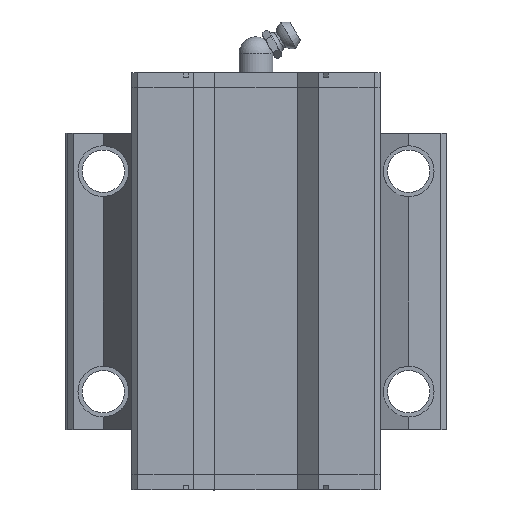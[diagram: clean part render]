
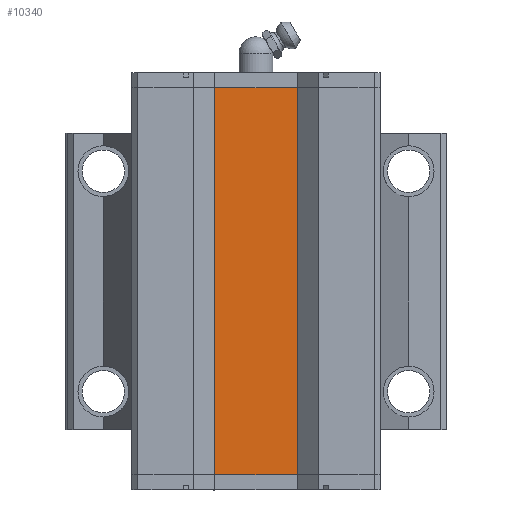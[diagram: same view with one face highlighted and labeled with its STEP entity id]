
A CAD part, front view. The second image highlights one B-rep face of the part: STEP entity #10340.
In plain terms, the highlighted planar face has unit normal (0, -1, 0).
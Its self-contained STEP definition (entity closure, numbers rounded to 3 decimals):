
#499 = CARTESIAN_POINT ( 'NONE',  ( -9.695, 20.5, -45.65 ) ) ;
#501 = CARTESIAN_POINT ( 'NONE',  ( 9.695, 20.5, 45.65 ) ) ;
#682 = VERTEX_POINT ( 'NONE', #9838 ) ;
#684 = VERTEX_POINT ( 'NONE', #9840 ) ;
#1614 = ORIENTED_EDGE ( 'NONE', *, *, #6444, .F. ) ;
#1615 = ORIENTED_EDGE ( 'NONE', *, *, #6443, .F. ) ;
#1616 = ORIENTED_EDGE ( 'NONE', *, *, #6440, .F. ) ;
#1617 = ORIENTED_EDGE ( 'NONE', *, *, #6446, .F. ) ;
#3119 = FACE_OUTER_BOUND ( 'NONE', #9762, .T. ) ;
#4275 = CARTESIAN_POINT ( 'NONE',  ( 9.695, 20.5, -45.65 ) ) ;
#4277 = PLANE ( 'NONE',  #4834 ) ;
#4280 = DIRECTION ( 'NONE',  ( 0., 1., 0. ) ) ;
#4281 = DIRECTION ( 'NONE',  ( 0., 0., 1. ) ) ;
#4834 = AXIS2_PLACEMENT_3D ( 'NONE', #4275, #4280, #4281 ) ;
#5078 = CARTESIAN_POINT ( 'NONE',  ( 9.695, 20.5, -45.65 ) ) ;
#5079 = CARTESIAN_POINT ( 'NONE',  ( 9.695, 20.5, 45.65 ) ) ;
#5084 = DIRECTION ( 'NONE',  ( 1., 0., 0. ) ) ;
#5090 = DIRECTION ( 'NONE',  ( 0., 0., -1. ) ) ;
#5091 = CARTESIAN_POINT ( 'NONE',  ( 9.695, 20.5, -45.65 ) ) ;
#5092 = DIRECTION ( 'NONE',  ( -1., 0., 0. ) ) ;
#5094 = CARTESIAN_POINT ( 'NONE',  ( -9.695, 20.5, -45.65 ) ) ;
#5095 = DIRECTION ( 'NONE',  ( 0., 0., 1. ) ) ;
#6440 = EDGE_CURVE ( 'NONE', #682, #12105, #10944, .T. ) ;
#6443 = EDGE_CURVE ( 'NONE', #12105, #684, #10948, .T. ) ;
#6444 = EDGE_CURVE ( 'NONE', #684, #12103, #10956, .T. ) ;
#6446 = EDGE_CURVE ( 'NONE', #12103, #682, #10960, .T. ) ;
#9762 = EDGE_LOOP ( 'NONE', ( #1614, #1615, #1616, #1617 ) ) ;
#9838 = CARTESIAN_POINT ( 'NONE',  ( -9.695, 20.5, 45.65 ) ) ;
#9840 = CARTESIAN_POINT ( 'NONE',  ( 9.695, 20.5, -45.65 ) ) ;
#10340 = ADVANCED_FACE ( 'NONE', ( #3119 ), #4277, .F. ) ;
#10944 = LINE ( 'NONE', #5079, #10951 ) ;
#10948 = LINE ( 'NONE', #5078, #10957 ) ;
#10951 = VECTOR ( 'NONE', #5084, 1000. ) ;
#10956 = LINE ( 'NONE', #5091, #10959 ) ;
#10957 = VECTOR ( 'NONE', #5090, 1000. ) ;
#10959 = VECTOR ( 'NONE', #5092, 1000. ) ;
#10960 = LINE ( 'NONE', #5094, #10963 ) ;
#10963 = VECTOR ( 'NONE', #5095, 1000. ) ;
#12103 = VERTEX_POINT ( 'NONE', #499 ) ;
#12105 = VERTEX_POINT ( 'NONE', #501 ) ;
